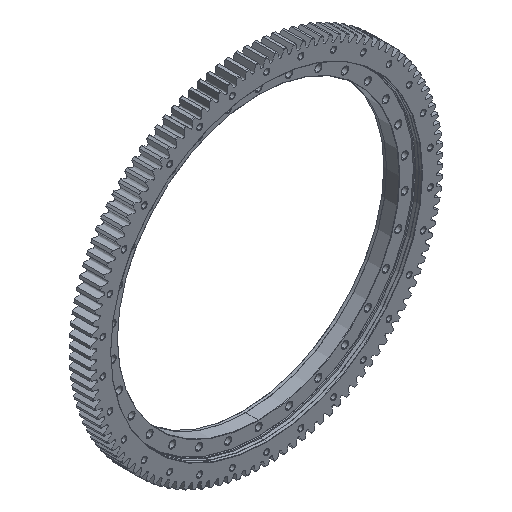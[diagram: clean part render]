
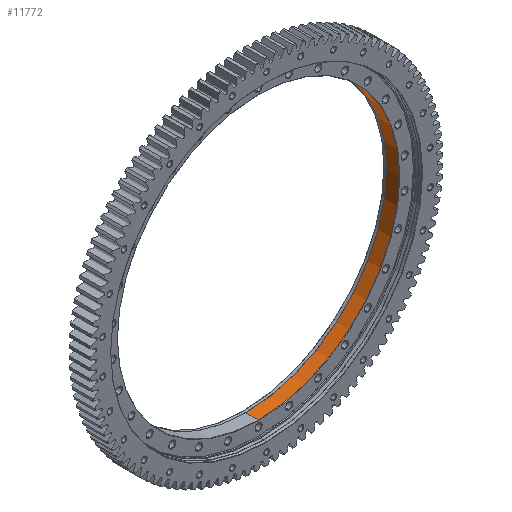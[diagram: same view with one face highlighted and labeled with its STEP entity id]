
A CAD part, isometric view. The second image highlights one B-rep face of the part: STEP entity #11772.
In plain terms, the highlighted cylindrical face has radius 477.5 mm (diameter 955 mm), a partial arc.
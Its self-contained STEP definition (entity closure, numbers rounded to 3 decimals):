
#1194 = DIRECTION ( 'NONE',  ( 0., 0., -1. ) ) ;
#1496 = EDGE_CURVE ( 'NONE', #54549, #13243, #13931, .T. ) ;
#3794 = DIRECTION ( 'NONE',  ( 0., -1., 0. ) ) ;
#6543 = EDGE_CURVE ( 'NONE', #50910, #8687, #50604, .T. ) ;
#7808 = CARTESIAN_POINT ( 'NONE',  ( 0., 28., -477.5 ) ) ;
#8687 = VERTEX_POINT ( 'NONE', #49570 ) ;
#8771 = CARTESIAN_POINT ( 'NONE',  ( 0., 0., 477.5 ) ) ;
#10532 = CARTESIAN_POINT ( 'NONE',  ( 0., 71., -477.5 ) ) ;
#11772 = ADVANCED_FACE ( 'NONE', ( #31535 ), #49799, .F. ) ;
#12963 = CARTESIAN_POINT ( 'NONE',  ( 0., 0., -477.5 ) ) ;
#13243 = VERTEX_POINT ( 'NONE', #54372 ) ;
#13931 = CIRCLE ( 'NONE', #16363, 477.5 ) ;
#14290 = VECTOR ( 'NONE', #53925, 1000. ) ;
#16363 = AXIS2_PLACEMENT_3D ( 'NONE', #53019, #34465, #37991 ) ;
#19009 = CARTESIAN_POINT ( 'NONE',  ( 0., 71., 0. ) ) ;
#20559 = ORIENTED_EDGE ( 'NONE', *, *, #24720, .T. ) ;
#21318 = DIRECTION ( 'NONE',  ( 0., -1., 0. ) ) ;
#22097 = VECTOR ( 'NONE', #3794, 1000. ) ;
#22740 = AXIS2_PLACEMENT_3D ( 'NONE', #52896, #21318, #25460 ) ;
#24720 = EDGE_CURVE ( 'NONE', #50910, #54549, #33742, .T. ) ;
#25460 = DIRECTION ( 'NONE',  ( 0., 0., -1. ) ) ;
#27153 = EDGE_CURVE ( 'NONE', #8687, #13243, #40782, .T. ) ;
#31176 = AXIS2_PLACEMENT_3D ( 'NONE', #19009, #37494, #1194 ) ;
#31535 = FACE_OUTER_BOUND ( 'NONE', #36315, .T. ) ;
#33742 = LINE ( 'NONE', #12963, #14290 ) ;
#34465 = DIRECTION ( 'NONE',  ( 0., -1., 0. ) ) ;
#36315 = EDGE_LOOP ( 'NONE', ( #40301, #54705, #20559, #39821 ) ) ;
#37494 = DIRECTION ( 'NONE',  ( 0., -1., 0. ) ) ;
#37991 = DIRECTION ( 'NONE',  ( 0., 0., -1. ) ) ;
#39821 = ORIENTED_EDGE ( 'NONE', *, *, #1496, .T. ) ;
#40301 = ORIENTED_EDGE ( 'NONE', *, *, #27153, .F. ) ;
#40782 = LINE ( 'NONE', #8771, #22097 ) ;
#49570 = CARTESIAN_POINT ( 'NONE',  ( 0., 71., 477.5 ) ) ;
#49799 = CYLINDRICAL_SURFACE ( 'NONE', #22740, 477.5 ) ;
#50604 = CIRCLE ( 'NONE', #31176, 477.5 ) ;
#50910 = VERTEX_POINT ( 'NONE', #10532 ) ;
#52896 = CARTESIAN_POINT ( 'NONE',  ( 0., 0., 0. ) ) ;
#53019 = CARTESIAN_POINT ( 'NONE',  ( 0., 28., 0. ) ) ;
#53925 = DIRECTION ( 'NONE',  ( 0., -1., 0. ) ) ;
#54372 = CARTESIAN_POINT ( 'NONE',  ( 0., 28., 477.5 ) ) ;
#54549 = VERTEX_POINT ( 'NONE', #7808 ) ;
#54705 = ORIENTED_EDGE ( 'NONE', *, *, #6543, .F. ) ;
